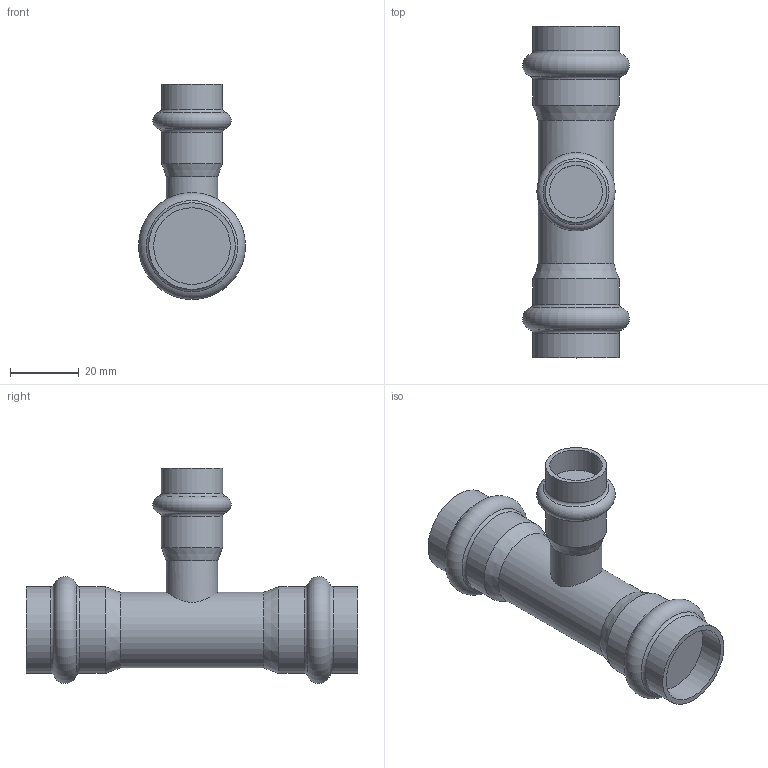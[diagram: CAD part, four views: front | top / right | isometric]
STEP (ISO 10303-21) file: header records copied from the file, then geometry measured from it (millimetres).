
FILE_DESCRIPTION(('STEP AP203'), '1');
FILE_NAME('VTi.931.I.221522', '', ('UNSPECIFIED'), ('UNSPECIFIED'), 'C3D Converter', 'C3D Toolkit', '');
FILE_SCHEMA(('CONFIG_CONTROL_DESIGN'));
Length unit declared in the file: millimetre
Bounding box: 31.09 x 96.5 x 62.55 mm (x, y, z)
Volume: 47279.8 mm3; surface area: 12469.7 mm2
Topology: 1 solids, 1 shells, 29 faces, 53 edges, 29 vertices
Faces by surface type: cylinder 11, torus 9, plane 6, cone 3
Full cylindrical faces by diameter (mm): 15 x1, 15.3 x1, 17.8 x2, 22 x1, 22.3 x2, 25.2 x4
Entity records: 866 total; most frequent: CARTESIAN_POINT 336, DIRECTION 114, ORIENTED_EDGE 58, AXIS2_PLACEMENT_3D 57, EDGE_LOOP 56, FACE_OUTER_BOUND 45, ADVANCED_FACE 29, EDGE_CURVE 29
